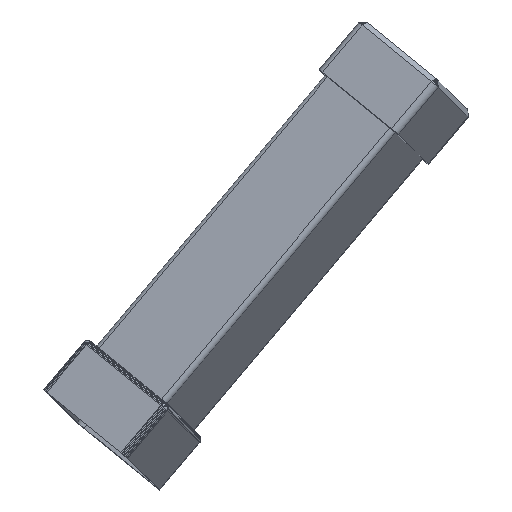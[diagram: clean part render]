
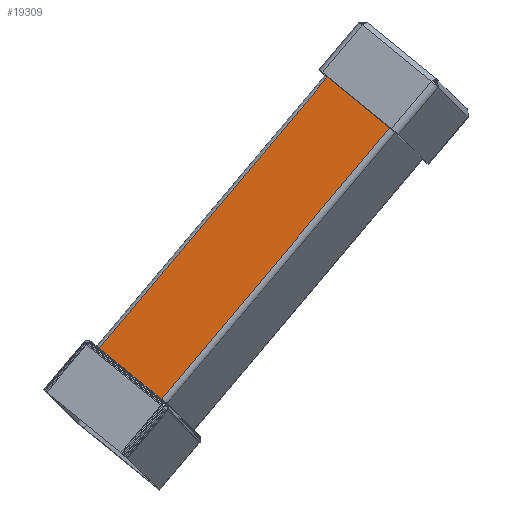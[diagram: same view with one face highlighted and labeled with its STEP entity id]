
A CAD part, left-side view. The second image highlights one B-rep face of the part: STEP entity #19309.
In plain terms, the highlighted planar face has unit normal (-0.906, 0.302, 0.296).
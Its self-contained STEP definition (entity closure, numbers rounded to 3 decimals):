
#2098 = PLANE('',#2099);
#2099 = AXIS2_PLACEMENT_3D('',#2100,#2101,#2102);
#2100 = CARTESIAN_POINT('',(-25.55,16.095,
    47.975));
#2101 = DIRECTION('',(0.035,-0.644,0.764)
  );
#2102 = DIRECTION('',(0.,0.765,0.644)
  );
#6290 = VERTEX_POINT('',#6291);
#6291 = CARTESIAN_POINT('',(-33.95,0.058,
    34.844));
#6321 = CYLINDRICAL_SURFACE('',#6322,2.032);
#6322 = AXIS2_PLACEMENT_3D('',#6323,#6324,#6325);
#6323 = CARTESIAN_POINT('',(-29.761,-43.703,
    85.436));
#6324 = DIRECTION('',(0.035,-0.644,0.764)
  );
#6325 = DIRECTION('',(0.939,0.283,0.195));
#6332 = EDGE_CURVE('',#6290,#6333,#6335,.T.);
#6333 = VERTEX_POINT('',#6334);
#6334 = CARTESIAN_POINT('',(-19.802,23.617,
    54.051));
#6335 = SURFACE_CURVE('',#6336,(#6340,#6347),.PCURVE_S1.);
#6336 = LINE('',#6337,#6338);
#6337 = CARTESIAN_POINT('',(-33.95,0.058,
    34.844));
#6338 = VECTOR('',#6339,1.);
#6339 = DIRECTION('',(0.422,0.703,0.573));
#6340 = PCURVE('',#2098,#6341);
#6341 = DEFINITIONAL_REPRESENTATION('',(#6342),#6346);
#6342 = LINE('',#6343,#6344);
#6343 = CARTESIAN_POINT('',(-20.725,8.405));
#6344 = VECTOR('',#6345,1.);
#6345 = DIRECTION('',(0.906,-0.422));
#6346 = ( GEOMETRIC_REPRESENTATION_CONTEXT(2) 
PARAMETRIC_REPRESENTATION_CONTEXT() REPRESENTATION_CONTEXT('2D SPACE',''
  ) );
#6347 = PCURVE('',#6348,#6353);
#6348 = PLANE('',#6349);
#6349 = AXIS2_PLACEMENT_3D('',#6350,#6351,#6352);
#6350 = CARTESIAN_POINT('',(-24.528,-31.309,
    95.642));
#6351 = DIRECTION('',(-0.906,0.302,0.296));
#6352 = DIRECTION('',(-0.311,0.,
    -0.95));
#6353 = DEFINITIONAL_REPRESENTATION('',(#6354),#6358);
#6354 = LINE('',#6355,#6356);
#6355 = CARTESIAN_POINT('',(60.714,-32.907));
#6356 = VECTOR('',#6357,1.);
#6357 = DIRECTION('',(-0.676,-0.737));
#6358 = ( GEOMETRIC_REPRESENTATION_CONTEXT(2) 
PARAMETRIC_REPRESENTATION_CONTEXT() REPRESENTATION_CONTEXT('2D SPACE',''
  ) );
#6390 = CYLINDRICAL_SURFACE('',#6391,2.032);
#6391 = AXIS2_PLACEMENT_3D('',#6392,#6393,#6394);
#6392 = CARTESIAN_POINT('',(-15.614,-20.144,
    104.643));
#6393 = DIRECTION('',(0.035,-0.644,0.764)
  );
#6394 = DIRECTION('',(0.342,-0.711,-0.615));
#16385 = PLANE('',#16386);
#16386 = AXIS2_PLACEMENT_3D('',#16387,#16388,#16389);
#16387 = CARTESIAN_POINT('',(-5.216,-80.134,
    141.273));
#16388 = DIRECTION('',(0.035,-0.644,0.764
    ));
#16389 = DIRECTION('',(0.,0.765,0.644));
#18572 = EDGE_CURVE('',#18573,#18575,#18577,.T.);
#18573 = VERTEX_POINT('',#18574);
#18574 = CARTESIAN_POINT('',(-15.107,-62.676,
    156.44));
#18575 = VERTEX_POINT('',#18576);
#18576 = CARTESIAN_POINT('',(-29.254,-86.235,
    137.233));
#18577 = SURFACE_CURVE('',#18578,(#18582,#18589),.PCURVE_S1.);
#18578 = LINE('',#18579,#18580);
#18579 = CARTESIAN_POINT('',(-15.107,-62.676,
    156.44));
#18580 = VECTOR('',#18581,1.);
#18581 = DIRECTION('',(-0.422,-0.703,-0.573)
  );
#18582 = PCURVE('',#16385,#18583);
#18583 = DEFINITIONAL_REPRESENTATION('',(#18584),#18588);
#18584 = LINE('',#18585,#18586);
#18585 = CARTESIAN_POINT('',(23.123,9.897));
#18586 = VECTOR('',#18587,1.);
#18587 = DIRECTION('',(-0.906,0.422));
#18588 = ( GEOMETRIC_REPRESENTATION_CONTEXT(2) 
PARAMETRIC_REPRESENTATION_CONTEXT() REPRESENTATION_CONTEXT('2D SPACE',''
  ) );
#18589 = PCURVE('',#6348,#18590);
#18590 = DEFINITIONAL_REPRESENTATION('',(#18591),#18595);
#18591 = LINE('',#18592,#18593);
#18592 = CARTESIAN_POINT('',(-60.714,32.907));
#18593 = VECTOR('',#18594,1.);
#18594 = DIRECTION('',(0.676,0.737));
#18595 = ( GEOMETRIC_REPRESENTATION_CONTEXT(2) 
PARAMETRIC_REPRESENTATION_CONTEXT() REPRESENTATION_CONTEXT('2D SPACE',''
  ) );
#19055 = EDGE_CURVE('',#6333,#18573,#19056,.T.);
#19056 = SURFACE_CURVE('',#19057,(#19061,#19068),.PCURVE_S1.);
#19057 = LINE('',#19058,#19059);
#19058 = CARTESIAN_POINT('',(-19.802,23.617,
    54.051));
#19059 = VECTOR('',#19060,1.);
#19060 = DIRECTION('',(0.035,-0.644,0.764
    ));
#19061 = PCURVE('',#6390,#19062);
#19062 = DEFINITIONAL_REPRESENTATION('',(#19063),#19067);
#19063 = LINE('',#19064,#19065);
#19064 = CARTESIAN_POINT('',(3.927,-66.992));
#19065 = VECTOR('',#19066,1.);
#19066 = DIRECTION('',(0.,1.));
#19067 = ( GEOMETRIC_REPRESENTATION_CONTEXT(2) 
PARAMETRIC_REPRESENTATION_CONTEXT() REPRESENTATION_CONTEXT('2D SPACE',''
  ) );
#19068 = PCURVE('',#6348,#19069);
#19069 = DEFINITIONAL_REPRESENTATION('',(#19070),#19074);
#19070 = LINE('',#19071,#19072);
#19071 = CARTESIAN_POINT('',(38.059,-57.624));
#19072 = VECTOR('',#19073,1.);
#19073 = DIRECTION('',(-0.737,0.676));
#19074 = ( GEOMETRIC_REPRESENTATION_CONTEXT(2) 
PARAMETRIC_REPRESENTATION_CONTEXT() REPRESENTATION_CONTEXT('2D SPACE',''
  ) );
#19309 = ADVANCED_FACE('',(#19310),#6348,.T.);
#19310 = FACE_BOUND('',#19311,.T.);
#19311 = EDGE_LOOP('',(#19312,#19313,#19314,#19335));
#19312 = ORIENTED_EDGE('',*,*,#19055,.F.);
#19313 = ORIENTED_EDGE('',*,*,#6332,.F.);
#19314 = ORIENTED_EDGE('',*,*,#19315,.T.);
#19315 = EDGE_CURVE('',#6290,#18575,#19316,.T.);
#19316 = SURFACE_CURVE('',#19317,(#19321,#19328),.PCURVE_S1.);
#19317 = LINE('',#19318,#19319);
#19318 = CARTESIAN_POINT('',(-33.95,0.058,
    34.844));
#19319 = VECTOR('',#19320,1.);
#19320 = DIRECTION('',(0.035,-0.644,0.764
    ));
#19321 = PCURVE('',#6348,#19322);
#19322 = DEFINITIONAL_REPRESENTATION('',(#19323),#19327);
#19323 = LINE('',#19324,#19325);
#19324 = CARTESIAN_POINT('',(60.714,-32.907));
#19325 = VECTOR('',#19326,1.);
#19326 = DIRECTION('',(-0.737,0.676));
#19327 = ( GEOMETRIC_REPRESENTATION_CONTEXT(2) 
PARAMETRIC_REPRESENTATION_CONTEXT() REPRESENTATION_CONTEXT('2D SPACE',''
  ) );
#19328 = PCURVE('',#6321,#19329);
#19329 = DEFINITIONAL_REPRESENTATION('',(#19330),#19334);
#19330 = LINE('',#19331,#19332);
#19331 = CARTESIAN_POINT('',(2.356,-66.992));
#19332 = VECTOR('',#19333,1.);
#19333 = DIRECTION('',(0.,1.));
#19334 = ( GEOMETRIC_REPRESENTATION_CONTEXT(2) 
PARAMETRIC_REPRESENTATION_CONTEXT() REPRESENTATION_CONTEXT('2D SPACE',''
  ) );
#19335 = ORIENTED_EDGE('',*,*,#18572,.F.);
